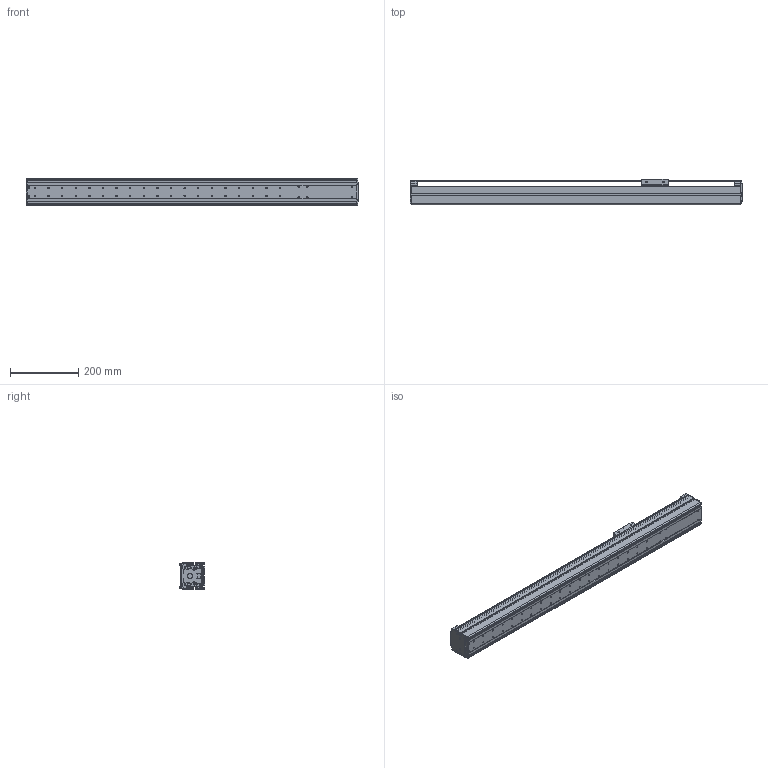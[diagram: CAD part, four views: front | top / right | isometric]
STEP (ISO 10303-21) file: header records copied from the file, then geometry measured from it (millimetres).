
FILE_DESCRIPTION((''),'2;1');
FILE_NAME('BE10E-ST-S_N-65_IGS_PRT','2017-06-17T',(' '),(''),'PRO/ENGINEER BY PARAMETRIC TECHNOLOGY CORPORATION, 2015030','PRO/ENGINEER BY PARAMETRIC TECHNOLOGY CORPORATION, 2015030','');
FILE_SCHEMA(('CONFIG_CONTROL_DESIGN'));
Length unit declared in the file: millimetre
Products named in the file (1): BE10E-ST-S_N-65_IGS_PRT
Bounding box: 975 x 75 x 78 mm (x, y, z)
Volume: 1102618.9 mm3; surface area: 741232.2 mm2
Topology: 3 solids, 75 shells, 1186 faces, 3177 edges, 2068 vertices
Faces by surface type: cylinder 600, plane 433, torus 66, sphere 42, cone 38, bspline 7
Entity records: 38400 total; most frequent: CARTESIAN_POINT 7903, DIRECTION 6634, ORIENTED_EDGE 6036, EDGE_CURVE 3157, AXIS2_PLACEMENT_3D 2517, VERTEX_POINT 2068, VECTOR 1600, LINE 1600
